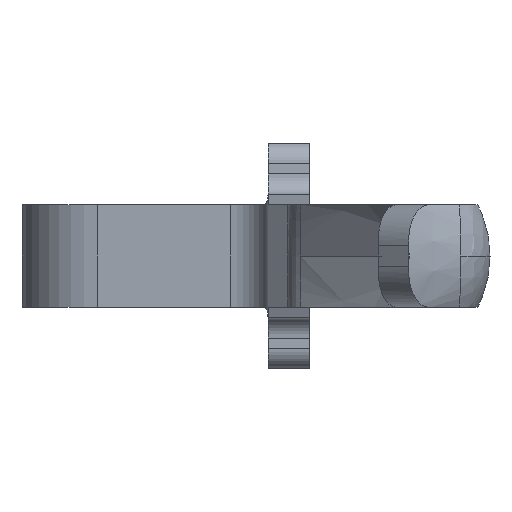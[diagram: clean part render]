
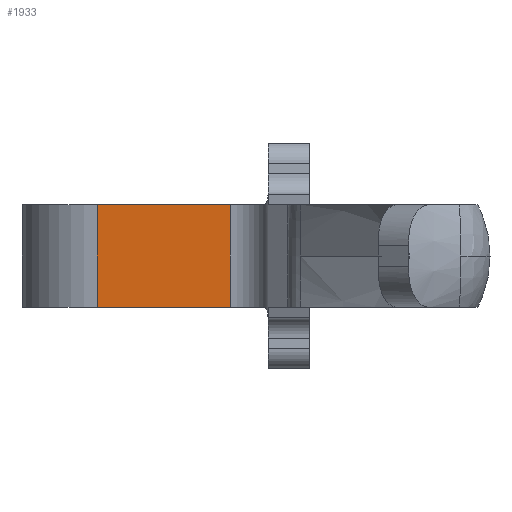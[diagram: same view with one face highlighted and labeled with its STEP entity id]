
A CAD part, front view. The second image highlights one B-rep face of the part: STEP entity #1933.
In plain terms, the highlighted planar face has unit normal (-0.08, -0.997, 0).
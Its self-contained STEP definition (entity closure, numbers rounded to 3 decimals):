
#745=DIRECTION('',(0.,0.,1.));
#746=VECTOR('',#745,0.5);
#747=CARTESIAN_POINT('',(-0.384,1.819,-0.25));
#748=LINE('',#747,#746);
#763=DIRECTION('',(0.997,-0.08,0.));
#764=VECTOR('',#763,0.65);
#765=CARTESIAN_POINT('',(-1.032,1.871,-0.25));
#766=LINE('',#765,#764);
#779=DIRECTION('',(0.997,-0.08,0.));
#780=VECTOR('',#779,0.65);
#781=CARTESIAN_POINT('',(-1.032,1.871,0.25));
#782=LINE('',#781,#780);
#783=DIRECTION('',(0.,0.,-1.));
#784=VECTOR('',#783,0.5);
#785=CARTESIAN_POINT('',(-1.032,1.871,0.25));
#786=LINE('',#785,#784);
#1045=CARTESIAN_POINT('',(-0.384,1.819,0.25));
#1046=VERTEX_POINT('',#1045);
#1047=CARTESIAN_POINT('',(-0.384,1.819,-0.25));
#1048=VERTEX_POINT('',#1047);
#1051=CARTESIAN_POINT('',(-1.032,1.871,-0.25));
#1052=VERTEX_POINT('',#1051);
#1055=CARTESIAN_POINT('',(-1.032,1.871,0.25));
#1056=VERTEX_POINT('',#1055);
#1921=CARTESIAN_POINT('',(-0.384,1.819,0.25));
#1922=DIRECTION('',(0.08,0.997,0.));
#1923=DIRECTION('',(-0.997,0.08,0.));
#1924=AXIS2_PLACEMENT_3D('',#1921,#1922,#1923);
#1925=PLANE('',#1924);
#1926=ORIENTED_EDGE('',*,*,#1914,.T.);
#1927=ORIENTED_EDGE('',*,*,#1860,.F.);
#1928=ORIENTED_EDGE('',*,*,#1887,.F.);
#1930=ORIENTED_EDGE('',*,*,#1929,.F.);
#1931=EDGE_LOOP('',(#1926,#1927,#1928,#1930));
#1932=FACE_OUTER_BOUND('',#1931,.F.);
#1933=ADVANCED_FACE('',(#1932),#1925,.F.);
#1860=EDGE_CURVE('',#1048,#1046,#748,.T.);
#1887=EDGE_CURVE('',#1052,#1048,#766,.T.);
#1914=EDGE_CURVE('',#1056,#1046,#782,.T.);
#1929=EDGE_CURVE('',#1056,#1052,#786,.T.);
